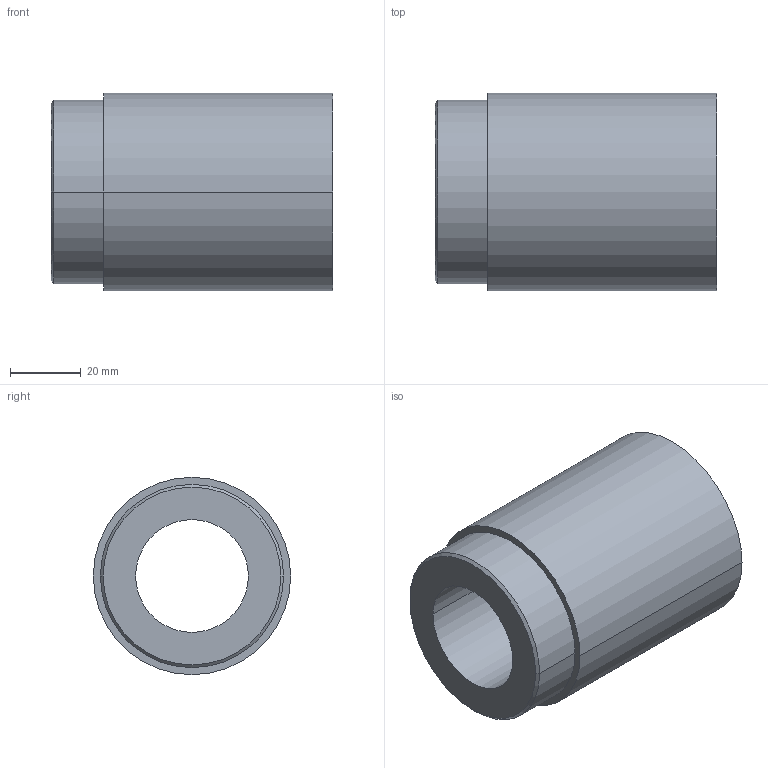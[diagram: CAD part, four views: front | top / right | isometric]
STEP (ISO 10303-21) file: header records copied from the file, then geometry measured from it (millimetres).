
FILE_DESCRIPTION (( 'STEP AP203' ), '1' );
FILE_NAME ('SE3210-R-4EF.STEP', '2002-08-15T11:46:26', ( '.' ), ( '.' ), 'SwSTEP 2.0', 'SolidWorks 2001340', '' );
FILE_SCHEMA (( 'CONFIG_CONTROL_DESIGN' ));
Length unit declared in the file: millimetre
Products named in the file (1): SE3210-R-4EF
Bounding box: 80 x 56 x 56 mm (x, y, z)
Volume: 127559.8 mm3; surface area: 25168.4 mm2
Topology: 1 solids, 1 shells, 11 faces, 22 edges, 14 vertices
Faces by surface type: cylinder 6, plane 3, cone 2
Entity records: 375 total; most frequent: DIRECTION 60, CARTESIAN_POINT 48, ORIENTED_EDGE 44, AXIS2_PLACEMENT_3D 26, EDGE_CURVE 22, VERTEX_POINT 14, EDGE_LOOP 14, CIRCLE 14
